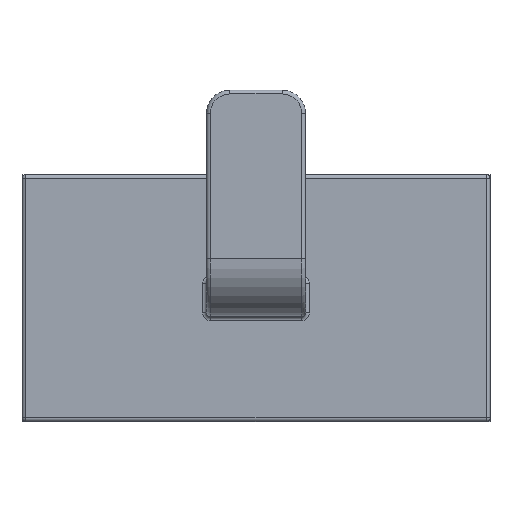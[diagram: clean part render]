
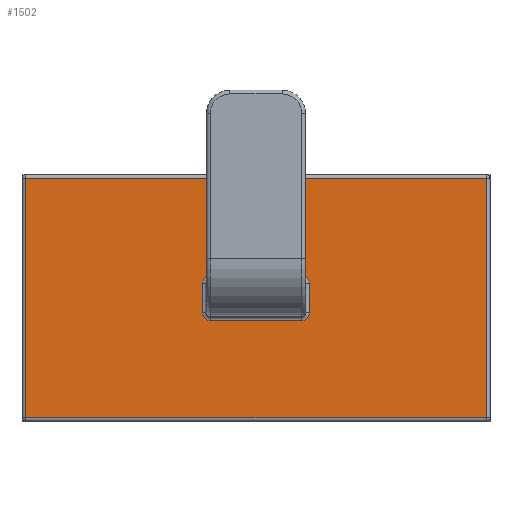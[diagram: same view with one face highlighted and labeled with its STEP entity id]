
A CAD part, top view. The second image highlights one B-rep face of the part: STEP entity #1502.
In plain terms, the highlighted planar face has unit normal (0, 0, 1).
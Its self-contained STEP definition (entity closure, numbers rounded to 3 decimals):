
#3 = LINE ( 'NONE', #94, #92 ) ;
#4 = DIRECTION ( 'NONE',  ( 0., 0., 1. ) ) ;
#13 = DIRECTION ( 'NONE',  ( -1., 0., 0. ) ) ;
#30 = ORIENTED_EDGE ( 'NONE', *, *, #1264, .T. ) ;
#36 = CARTESIAN_POINT ( 'NONE',  ( -148.221, -43.481, 257.545 ) ) ;
#39 = EDGE_CURVE ( 'NONE', #1743, #635, #1506, .T. ) ;
#84 = ORIENTED_EDGE ( 'NONE', *, *, #743, .T. ) ;
#92 = VECTOR ( 'NONE', #910, 1000. ) ;
#94 = CARTESIAN_POINT ( 'NONE',  ( -135.521, -29.512, 257.545 ) ) ;
#99 = EDGE_CURVE ( 'NONE', #1607, #673, #1420, .T. ) ;
#118 = EDGE_CURVE ( 'NONE', #1491, #1210, #1009, .T. ) ;
#132 = DIRECTION ( 'NONE',  ( -1., 0., 0. ) ) ;
#137 = CARTESIAN_POINT ( 'NONE',  ( -148.221, -48.243, 257.545 ) ) ;
#153 = VECTOR ( 'NONE', #1205, 1000. ) ;
#154 = CARTESIAN_POINT ( 'NONE',  ( -148.221, -47.243, 257.545 ) ) ;
#215 = VECTOR ( 'NONE', #904, 1000. ) ;
#245 = DIRECTION ( 'NONE',  ( 0., 0., -1. ) ) ;
#262 = VECTOR ( 'NONE', #978, 1000. ) ;
#266 = CARTESIAN_POINT ( 'NONE',  ( -136.521, -43.481, 257.545 ) ) ;
#287 = DIRECTION ( 'NONE',  ( 0., 0., 1. ) ) ;
#373 = CARTESIAN_POINT ( 'NONE',  ( -172.371, -29.512, 257.545 ) ) ;
#380 = LINE ( 'NONE', #1604, #1430 ) ;
#385 = ORIENTED_EDGE ( 'NONE', *, *, #1467, .T. ) ;
#425 = AXIS2_PLACEMENT_3D ( 'NONE', #154, #966, #13 ) ;
#459 = ORIENTED_EDGE ( 'NONE', *, *, #99, .T. ) ;
#558 = VECTOR ( 'NONE', #1093, 1000. ) ;
#571 = ORIENTED_EDGE ( 'NONE', *, *, #1562, .T. ) ;
#580 = CARTESIAN_POINT ( 'NONE',  ( -149.221, -47.243, 257.545 ) ) ;
#585 = EDGE_CURVE ( 'NONE', #1743, #1730, #1370, .T. ) ;
#588 = AXIS2_PLACEMENT_3D ( 'NONE', #373, #245, #1201 ) ;
#602 = FACE_OUTER_BOUND ( 'NONE', #1464, .T. ) ;
#623 = EDGE_CURVE ( 'NONE', #1469, #1258, #917, .T. ) ;
#635 = VERTEX_POINT ( 'NONE', #137 ) ;
#649 = EDGE_CURVE ( 'NONE', #1380, #673, #1596, .T. ) ;
#673 = VERTEX_POINT ( 'NONE', #809 ) ;
#703 = AXIS2_PLACEMENT_3D ( 'NONE', #954, #4, #821 ) ;
#711 = LINE ( 'NONE', #1245, #262 ) ;
#712 = CARTESIAN_POINT ( 'NONE',  ( -149.221, -43.481, 257.545 ) ) ;
#743 = EDGE_CURVE ( 'NONE', #1684, #1173, #380, .T. ) ;
#778 = CARTESIAN_POINT ( 'NONE',  ( -112.871, -30.012, 257.545 ) ) ;
#788 = ORIENTED_EDGE ( 'NONE', *, *, #649, .F. ) ;
#809 = CARTESIAN_POINT ( 'NONE',  ( -136.521, -42.481, 257.545 ) ) ;
#810 = CARTESIAN_POINT ( 'NONE',  ( -148.221, -42.481, 257.545 ) ) ;
#821 = DIRECTION ( 'NONE',  ( -1., 0., 0. ) ) ;
#851 = EDGE_CURVE ( 'NONE', #1491, #635, #1613, .T. ) ;
#896 = AXIS2_PLACEMENT_3D ( 'NONE', #36, #287, #1581 ) ;
#904 = DIRECTION ( 'NONE',  ( -1., 0., 0. ) ) ;
#910 = DIRECTION ( 'NONE',  ( 0., -1., 0. ) ) ;
#917 = LINE ( 'NONE', #1228, #558 ) ;
#954 = CARTESIAN_POINT ( 'NONE',  ( -136.521, -47.243, 257.545 ) ) ;
#956 = DIRECTION ( 'NONE',  ( 0., 1., 0. ) ) ;
#962 = CARTESIAN_POINT ( 'NONE',  ( -149.221, -29.512, 257.545 ) ) ;
#966 = DIRECTION ( 'NONE',  ( 0., 0., 1. ) ) ;
#968 = CARTESIAN_POINT ( 'NONE',  ( -112.871, -60.712, 257.545 ) ) ;
#978 = DIRECTION ( 'NONE',  ( 1., 0., 0. ) ) ;
#1003 = FACE_BOUND ( 'NONE', #1039, .T. ) ;
#1009 = CIRCLE ( 'NONE', #703, 1. ) ;
#1039 = EDGE_LOOP ( 'NONE', ( #1742, #1749, #1071, #459, #788, #385, #1568, #1513 ) ) ;
#1071 = ORIENTED_EDGE ( 'NONE', *, *, #1319, .F. ) ;
#1084 = DIRECTION ( 'NONE',  ( 0., 0., 1. ) ) ;
#1093 = DIRECTION ( 'NONE',  ( 0., -1., 0. ) ) ;
#1108 = DIRECTION ( 'NONE',  ( 1., 0., 0. ) ) ;
#1173 = VERTEX_POINT ( 'NONE', #778 ) ;
#1188 = CARTESIAN_POINT ( 'NONE',  ( -171.871, -30.012, 257.545 ) ) ;
#1201 = DIRECTION ( 'NONE',  ( -1., 0., 0. ) ) ;
#1205 = DIRECTION ( 'NONE',  ( -1., 0., 0. ) ) ;
#1210 = VERTEX_POINT ( 'NONE', #1321 ) ;
#1228 = CARTESIAN_POINT ( 'NONE',  ( -171.871, -29.512, 257.545 ) ) ;
#1239 = CARTESIAN_POINT ( 'NONE',  ( -172.371, -42.481, 257.545 ) ) ;
#1245 = CARTESIAN_POINT ( 'NONE',  ( -172.371, -60.712, 257.545 ) ) ;
#1258 = VERTEX_POINT ( 'NONE', #1447 ) ;
#1264 = EDGE_CURVE ( 'NONE', #1258, #1684, #711, .T. ) ;
#1311 = CARTESIAN_POINT ( 'NONE',  ( -135.521, -43.481, 257.545 ) ) ;
#1318 = ORIENTED_EDGE ( 'NONE', *, *, #623, .T. ) ;
#1319 = EDGE_CURVE ( 'NONE', #1607, #1730, #1657, .T. ) ;
#1321 = CARTESIAN_POINT ( 'NONE',  ( -135.521, -47.243, 257.545 ) ) ;
#1332 = CARTESIAN_POINT ( 'NONE',  ( -136.521, -48.243, 257.545 ) ) ;
#1348 = CARTESIAN_POINT ( 'NONE',  ( -172.371, -30.012, 257.545 ) ) ;
#1366 = AXIS2_PLACEMENT_3D ( 'NONE', #266, #1084, #132 ) ;
#1370 = LINE ( 'NONE', #962, #1674 ) ;
#1378 = VECTOR ( 'NONE', #1108, 1000. ) ;
#1380 = VERTEX_POINT ( 'NONE', #1311 ) ;
#1420 = LINE ( 'NONE', #1239, #1378 ) ;
#1430 = VECTOR ( 'NONE', #1477, 1000. ) ;
#1447 = CARTESIAN_POINT ( 'NONE',  ( -171.871, -60.712, 257.545 ) ) ;
#1464 = EDGE_LOOP ( 'NONE', ( #84, #571, #1318, #30 ) ) ;
#1467 = EDGE_CURVE ( 'NONE', #1380, #1210, #3, .T. ) ;
#1469 = VERTEX_POINT ( 'NONE', #1188 ) ;
#1477 = DIRECTION ( 'NONE',  ( 0., 1., 0. ) ) ;
#1491 = VERTEX_POINT ( 'NONE', #1332 ) ;
#1502 = ADVANCED_FACE ( 'NONE', ( #602, #1003 ), #1727, .F. ) ;
#1506 = CIRCLE ( 'NONE', #425, 1. ) ;
#1513 = ORIENTED_EDGE ( 'NONE', *, *, #851, .T. ) ;
#1562 = EDGE_CURVE ( 'NONE', #1173, #1469, #1597, .T. ) ;
#1568 = ORIENTED_EDGE ( 'NONE', *, *, #118, .F. ) ;
#1581 = DIRECTION ( 'NONE',  ( -1., 0., 0. ) ) ;
#1596 = CIRCLE ( 'NONE', #1366, 1. ) ;
#1597 = LINE ( 'NONE', #1348, #153 ) ;
#1604 = CARTESIAN_POINT ( 'NONE',  ( -112.871, -29.512, 257.545 ) ) ;
#1607 = VERTEX_POINT ( 'NONE', #810 ) ;
#1613 = LINE ( 'NONE', #1709, #215 ) ;
#1657 = CIRCLE ( 'NONE', #896, 1. ) ;
#1674 = VECTOR ( 'NONE', #956, 1000. ) ;
#1684 = VERTEX_POINT ( 'NONE', #968 ) ;
#1709 = CARTESIAN_POINT ( 'NONE',  ( -172.371, -48.243, 257.545 ) ) ;
#1727 = PLANE ( 'NONE',  #588 ) ;
#1730 = VERTEX_POINT ( 'NONE', #712 ) ;
#1742 = ORIENTED_EDGE ( 'NONE', *, *, #39, .F. ) ;
#1743 = VERTEX_POINT ( 'NONE', #580 ) ;
#1749 = ORIENTED_EDGE ( 'NONE', *, *, #585, .T. ) ;
